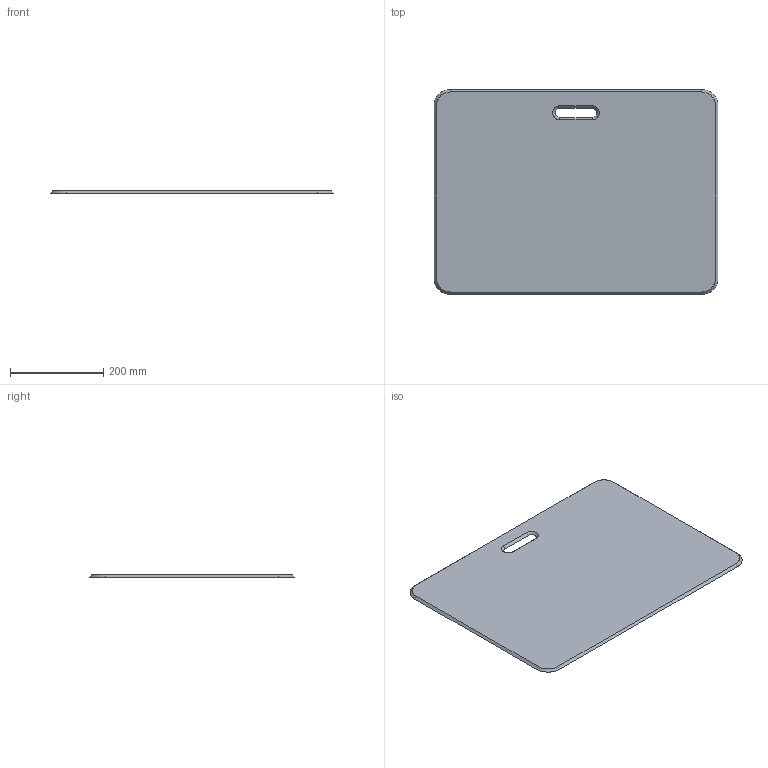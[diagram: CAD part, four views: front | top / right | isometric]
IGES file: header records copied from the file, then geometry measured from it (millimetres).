
Global section: file name: C:\Users\colombo_c\Desktop\Danese\Sito\3D mancanti\Secondo piano\Secondo piano.igs; native system: Rhinoceros ( Apr 16 2024 ); preprocessor: Trout Lake IGES 012 Apr 16 2024; date: 250710.102502; units: millimetre
Bounding box: 610 x 440 x 5 mm (x, y, z)
Surface area: 535913.7 mm2 (no closed solid volume)
Topology: 0 solids, 0 shells, 14 faces, 76 edges, 76 vertices
Faces by surface type: bspline 14
